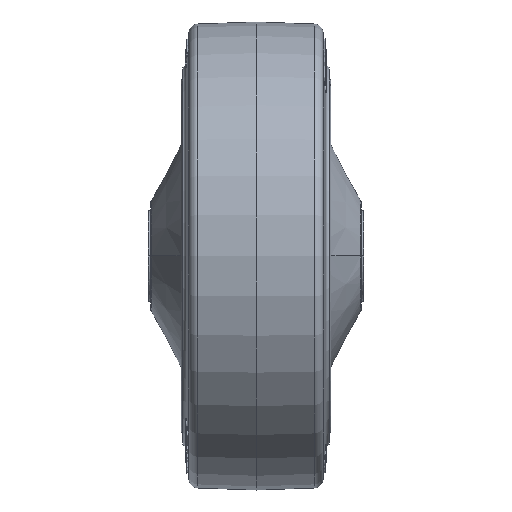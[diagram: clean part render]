
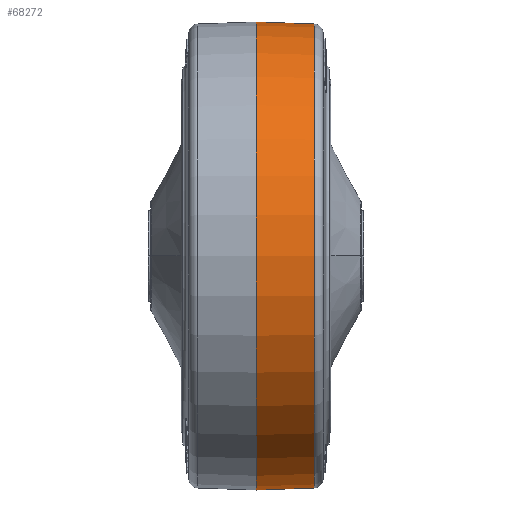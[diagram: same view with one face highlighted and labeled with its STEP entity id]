
A CAD part, top view. The second image highlights one B-rep face of the part: STEP entity #68272.
In plain terms, the highlighted conical face has half-angle 2 degrees and reference radius 1 mm.
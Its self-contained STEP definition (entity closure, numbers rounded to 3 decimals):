
#506 = CARTESIAN_POINT ( 'NONE',  ( 0., 0., 0. ) ) ;
#2702 = EDGE_CURVE ( 'NONE', #30061, #41056, #62870, .T. ) ;
#2711 = ORIENTED_EDGE ( 'NONE', *, *, #63697, .T. ) ;
#5629 = CARTESIAN_POINT ( 'NONE',  ( 12.422, -49.566, 0. ) ) ;
#6650 = DIRECTION ( 'NONE',  ( -1., 0., 0. ) ) ;
#11039 = FACE_OUTER_BOUND ( 'NONE', #25035, .T. ) ;
#11925 = CONICAL_SURFACE ( 'NONE', #45093, 1., 0.035 ) ;
#12670 = CIRCLE ( 'NONE', #65564, 49.566 ) ;
#15536 = VECTOR ( 'NONE', #21650, 1000. ) ;
#16356 = DIRECTION ( 'NONE',  ( -0.999, 0.035, 0. ) ) ;
#16400 = DIRECTION ( 'NONE',  ( 0., -1., 0. ) ) ;
#16538 = DIRECTION ( 'NONE',  ( 0., -1., 0. ) ) ;
#18358 = VERTEX_POINT ( 'NONE', #34256 ) ;
#21202 = VERTEX_POINT ( 'NONE', #21338 ) ;
#21338 = CARTESIAN_POINT ( 'NONE',  ( 0., 50., 0. ) ) ;
#21650 = DIRECTION ( 'NONE',  ( -0.999, -0.035, 0. ) ) ;
#21825 = DIRECTION ( 'NONE',  ( -1., 0., 0. ) ) ;
#24540 = VECTOR ( 'NONE', #16356, 1000. ) ;
#25035 = EDGE_LOOP ( 'NONE', ( #2711, #32772, #32955, #44772 ) ) ;
#30061 = VERTEX_POINT ( 'NONE', #32768 ) ;
#32332 = EDGE_CURVE ( 'NONE', #18358, #21202, #66030, .T. ) ;
#32638 = CARTESIAN_POINT ( 'NONE',  ( 1403.176, 0., 0. ) ) ;
#32768 = CARTESIAN_POINT ( 'NONE',  ( 12.422, -49.566, 0. ) ) ;
#32772 = ORIENTED_EDGE ( 'NONE', *, *, #32332, .T. ) ;
#32955 = ORIENTED_EDGE ( 'NONE', *, *, #68743, .F. ) ;
#34256 = CARTESIAN_POINT ( 'NONE',  ( 12.422, 49.566, 0. ) ) ;
#36031 = CARTESIAN_POINT ( 'NONE',  ( 12.422, 49.566, 0. ) ) ;
#36852 = CIRCLE ( 'NONE', #56263, 50. ) ;
#38508 = CARTESIAN_POINT ( 'NONE',  ( 12.422, 0., 0. ) ) ;
#41056 = VERTEX_POINT ( 'NONE', #63232 ) ;
#44772 = ORIENTED_EDGE ( 'NONE', *, *, #2702, .F. ) ;
#44979 = DIRECTION ( 'NONE',  ( 0., -1., 0. ) ) ;
#45093 = AXIS2_PLACEMENT_3D ( 'NONE', #32638, #58637, #16400 ) ;
#56263 = AXIS2_PLACEMENT_3D ( 'NONE', #506, #21825, #16538 ) ;
#58637 = DIRECTION ( 'NONE',  ( -1., 0., 0. ) ) ;
#62870 = LINE ( 'NONE', #5629, #15536 ) ;
#63232 = CARTESIAN_POINT ( 'NONE',  ( 0., -50., 0. ) ) ;
#63697 = EDGE_CURVE ( 'NONE', #30061, #18358, #12670, .T. ) ;
#65564 = AXIS2_PLACEMENT_3D ( 'NONE', #38508, #6650, #44979 ) ;
#66030 = LINE ( 'NONE', #36031, #24540 ) ;
#68272 = ADVANCED_FACE ( 'NONE', ( #11039 ), #11925, .T. ) ;
#68743 = EDGE_CURVE ( 'NONE', #41056, #21202, #36852, .T. ) ;
